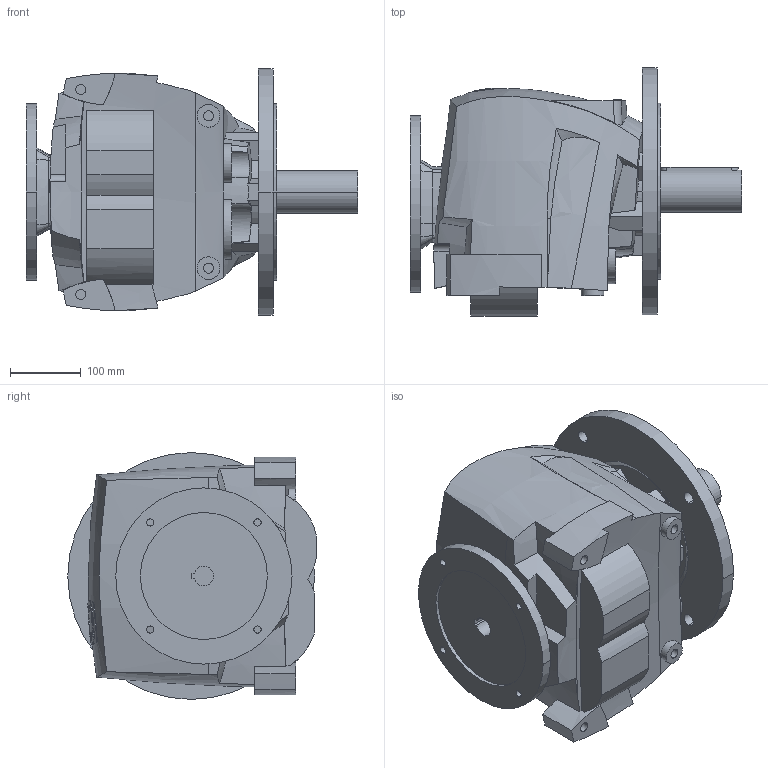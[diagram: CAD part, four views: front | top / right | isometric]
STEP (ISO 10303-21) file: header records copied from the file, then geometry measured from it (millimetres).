
FILE_DESCRIPTION((''),'2;1');
FILE_NAME('R50_350_PAM100112_D2','2013-12-18T',('Luca'),(''),'PRO/ENGINEER BY PARAMETRIC TECHNOLOGY CORPORATION, 2008230','PRO/ENGINEER BY PARAMETRIC TECHNOLOGY CORPORATION, 2008230','');
FILE_SCHEMA(('CONFIG_CONTROL_DESIGN'));
Length unit declared in the file: millimetre
Products named in the file (1): R50_350_PAM100112_D2
Bounding box: 470 x 352.31 x 350 mm (x, y, z)
Volume: 23488030.4 mm3; surface area: 810258.9 mm2
Topology: 1 solids, 7 shells, 418 faces, 1101 edges, 731 vertices
Faces by surface type: plane 169, cylinder 138, bspline 86, cone 13, torus 7, extrusion 5
Entity records: 17660 total; most frequent: CARTESIAN_POINT 7901, ORIENTED_EDGE 2198, DIRECTION 1702, EDGE_CURVE 1099, VERTEX_POINT 731, AXIS2_PLACEMENT_3D 598, VECTOR 506, LINE 501
